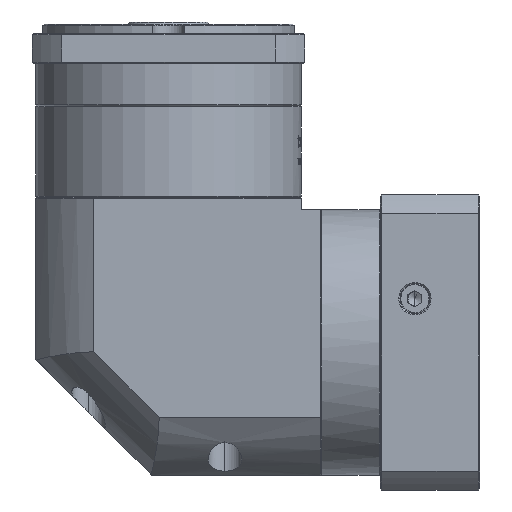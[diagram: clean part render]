
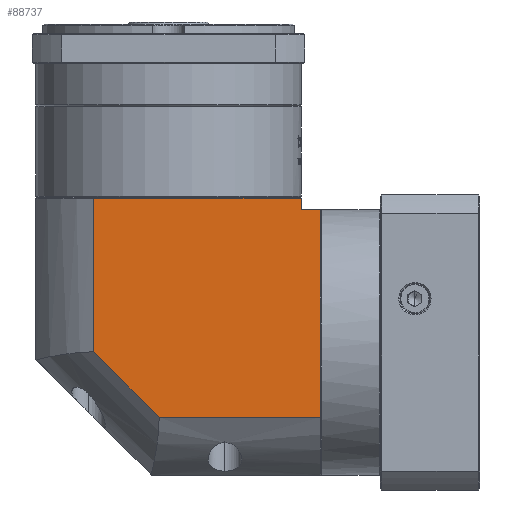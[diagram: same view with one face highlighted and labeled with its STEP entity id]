
A CAD part, left-side view. The second image highlights one B-rep face of the part: STEP entity #88737.
In plain terms, the highlighted planar face has unit normal (-1, 0, 0).
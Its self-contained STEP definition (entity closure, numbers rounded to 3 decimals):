
#2154 = DIRECTION ( 'NONE',  ( 1., 0., 0. ) ) ;
#4248 = CARTESIAN_POINT ( 'NONE',  ( -271.005, -56.093, -29.276 ) ) ;
#8259 = ORIENTED_EDGE ( 'NONE', *, *, #58972, .F. ) ;
#8737 = LINE ( 'NONE', #148598, #103662 ) ;
#12190 = VERTEX_POINT ( 'NONE', #78636 ) ;
#15387 = CARTESIAN_POINT ( 'NONE',  ( -271.005, -2.655, 65.624 ) ) ;
#15603 = VERTEX_POINT ( 'NONE', #157036 ) ;
#25372 = EDGE_LOOP ( 'NONE', ( #71378, #90078, #8259, #32842, #163993, #58768, #129010 ) ) ;
#29740 = VECTOR ( 'NONE', #30124, 1000. ) ;
#30124 = DIRECTION ( 'NONE',  ( 0., 1., 0. ) ) ;
#32842 = ORIENTED_EDGE ( 'NONE', *, *, #103794, .F. ) ;
#33359 = VERTEX_POINT ( 'NONE', #88878 ) ;
#37062 = LINE ( 'NONE', #37268, #44982 ) ;
#37268 = CARTESIAN_POINT ( 'NONE',  ( -271.005, -117.655, -54.376 ) ) ;
#37624 = LINE ( 'NONE', #80175, #94981 ) ;
#38491 = CARTESIAN_POINT ( 'NONE',  ( -271.005, -126.055, -29.276 ) ) ;
#44982 = VECTOR ( 'NONE', #151207, 1000. ) ;
#46189 = EDGE_CURVE ( 'NONE', #12190, #15603, #37062, .T. ) ;
#50319 = VECTOR ( 'NONE', #66861, 1000. ) ;
#54738 = VERTEX_POINT ( 'NONE', #38491 ) ;
#58768 = ORIENTED_EDGE ( 'NONE', *, *, #46189, .T. ) ;
#58972 = EDGE_CURVE ( 'NONE', #54738, #33359, #8737, .T. ) ;
#61631 = CARTESIAN_POINT ( 'NONE',  ( -271.005, -27.755, 65.624 ) ) ;
#65319 = CARTESIAN_POINT ( 'NONE',  ( -271.005, -126.055, 60.624 ) ) ;
#66020 = VERTEX_POINT ( 'NONE', #65319 ) ;
#66861 = DIRECTION ( 'NONE',  ( 0., -1., 0. ) ) ;
#67489 = FACE_OUTER_BOUND ( 'NONE', #25372, .T. ) ;
#68922 = CARTESIAN_POINT ( 'NONE',  ( -271.005, -117.655, 60.624 ) ) ;
#70678 = DIRECTION ( 'NONE',  ( 0., 1., 0. ) ) ;
#71378 = ORIENTED_EDGE ( 'NONE', *, *, #120183, .F. ) ;
#71800 = EDGE_CURVE ( 'NONE', #66020, #12190, #87153, .T. ) ;
#72072 = VERTEX_POINT ( 'NONE', #61631 ) ;
#76358 = CARTESIAN_POINT ( 'NONE',  ( -271.005, -2.655, 72.124 ) ) ;
#77727 = VECTOR ( 'NONE', #144681, 1000. ) ;
#78636 = CARTESIAN_POINT ( 'NONE',  ( -271.005, -117.655, 60.624 ) ) ;
#80175 = CARTESIAN_POINT ( 'NONE',  ( -271.005, -126.055, 72.124 ) ) ;
#83871 = LINE ( 'NONE', #15387, #50319 ) ;
#87153 = LINE ( 'NONE', #68922, #29740 ) ;
#88737 = ADVANCED_FACE ( 'NONE', ( #67489 ), #134896, .F. ) ;
#88878 = CARTESIAN_POINT ( 'NONE',  ( -271.005, -56.093, -29.276 ) ) ;
#89008 = DIRECTION ( 'NONE',  ( 0., 1., 0. ) ) ;
#90078 = ORIENTED_EDGE ( 'NONE', *, *, #134798, .F. ) ;
#94502 = DIRECTION ( 'NONE',  ( 0., 0., -1. ) ) ;
#94981 = VECTOR ( 'NONE', #94502, 1000. ) ;
#96096 = CARTESIAN_POINT ( 'NONE',  ( -271.005, -27.755, 72.124 ) ) ;
#103662 = VECTOR ( 'NONE', #70678, 1000. ) ;
#103794 = EDGE_CURVE ( 'NONE', #66020, #54738, #37624, .T. ) ;
#107885 = VERTEX_POINT ( 'NONE', #137905 ) ;
#115222 = EDGE_CURVE ( 'NONE', #72072, #15603, #83871, .T. ) ;
#117688 = VECTOR ( 'NONE', #134215, 1000. ) ;
#120183 = EDGE_CURVE ( 'NONE', #107885, #72072, #155288, .T. ) ;
#121745 = AXIS2_PLACEMENT_3D ( 'NONE', #76358, #2154, #89008 ) ;
#129010 = ORIENTED_EDGE ( 'NONE', *, *, #115222, .F. ) ;
#134215 = DIRECTION ( 'NONE',  ( 0., 0., 1. ) ) ;
#134798 = EDGE_CURVE ( 'NONE', #33359, #107885, #152973, .T. ) ;
#134896 = PLANE ( 'NONE',  #121745 ) ;
#137905 = CARTESIAN_POINT ( 'NONE',  ( -271.005, -27.755, -0.938 ) ) ;
#144681 = DIRECTION ( 'NONE',  ( 0., 0.707, 0.707 ) ) ;
#148598 = CARTESIAN_POINT ( 'NONE',  ( -271.005, -2.655, -29.276 ) ) ;
#151207 = DIRECTION ( 'NONE',  ( 0., 0., 1. ) ) ;
#152973 = LINE ( 'NONE', #4248, #77727 ) ;
#155288 = LINE ( 'NONE', #96096, #117688 ) ;
#157036 = CARTESIAN_POINT ( 'NONE',  ( -271.005, -117.655, 65.624 ) ) ;
#163993 = ORIENTED_EDGE ( 'NONE', *, *, #71800, .T. ) ;
